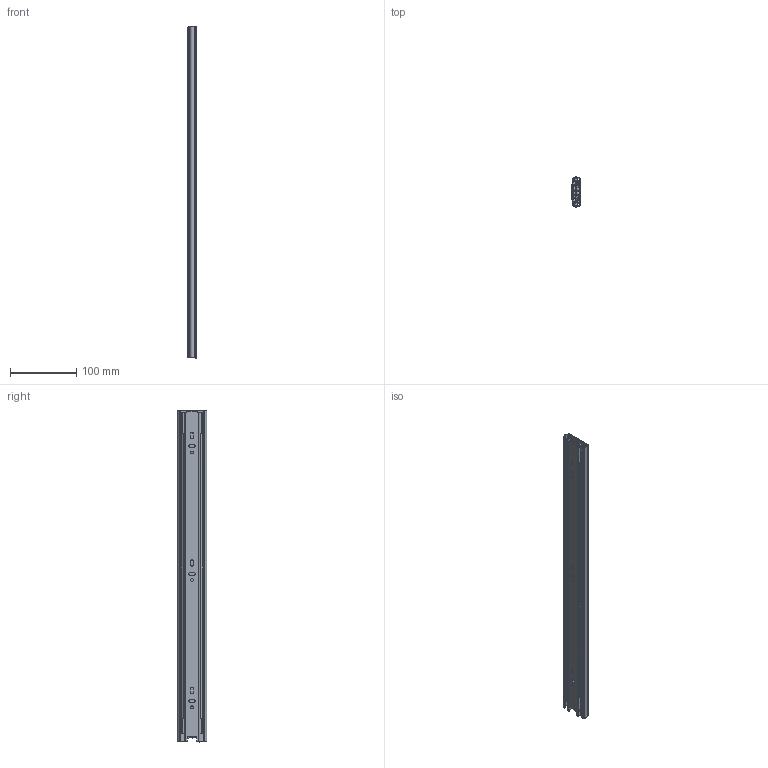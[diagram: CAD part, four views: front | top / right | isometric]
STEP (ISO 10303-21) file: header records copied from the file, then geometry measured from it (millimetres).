
FILE_DESCRIPTION(/* description */ (''),/* implementation_level */ '2;1');
FILE_NAME(/* name */ '\\NAS\db20\L4-500\DR_L4-500.stp',/* time_stamp */ '2017-10-11T08:31:00+09:00',/* author */ ('user'),/* organization */ (''),/* preprocessor_version */ 'ST-DEVELOPER v15.6',/* originating_system */ 'Autodesk Inventor 2015',/* authorisation */ '');
FILE_SCHEMA (('AUTOMOTIVE_DESIGN { 1 0 10303 214 3 1 1 }'));
Length unit declared in the file: millimetre
Products named in the file (1): DR_L4-500
Bounding box: 12.7 x 44.62 x 500 mm (x, y, z)
Volume: 145845.1 mm3; surface area: 206806.1 mm2
Topology: 7 solids, 7 shells, 285 faces, 813 edges, 542 vertices
Faces by surface type: plane 167, cylinder 114, bspline 4
Full cylindrical faces by diameter (mm): 4.5 x3, 4.762 x2, 5 x5
Entity records: 9437 total; most frequent: CARTESIAN_POINT 1715, ORIENTED_EDGE 1602, DIRECTION 1583, EDGE_CURVE 801, LINE 563, VECTOR 563, VERTEX_POINT 540, AXIS2_PLACEMENT_3D 510
